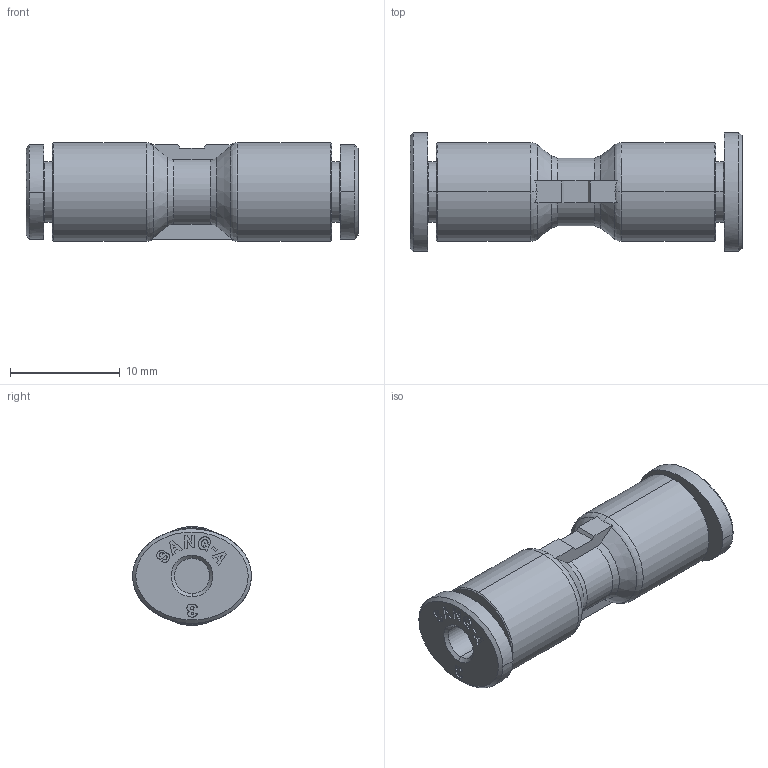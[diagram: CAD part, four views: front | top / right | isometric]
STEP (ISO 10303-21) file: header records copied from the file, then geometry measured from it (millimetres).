
FILE_DESCRIPTION((''),'2;1');
FILE_NAME('GPUC 03(3D).stp','2012-12-27T14:41:35',(''),(''),'Mechanical Desktop.R8.0.24.0','Mechanical Desktop.R8.0.24.0',', , ');
FILE_SCHEMA(('CONFIG_CONTROL_DESIGN'));
Length unit declared in the file: millimetre
Products named in the file (2): GPUC 03(3D); 睡ヶ1
Assembly tree (1 placements, depth 2):
  GPUC 03(3D)
    睡ヶ1
Bounding box: 30.2 x 10.8 x 9 mm (x, y, z)
Volume: 1477.3 mm3; surface area: 1449.9 mm2
Topology: 1 solids, 1 shells, 484 faces, 1360 edges, 902 vertices
Faces by surface type: plane 372, bspline 62, cylinder 30, cone 16, torus 4
Entity records: 16929 total; most frequent: CARTESIAN_POINT 4460, ORIENTED_EDGE 2720, DIRECTION 2360, EDGE_CURVE 1360, VECTOR 1124, LINE 1124, VERTEX_POINT 902, AXIS2_PLACEMENT_3D 618
